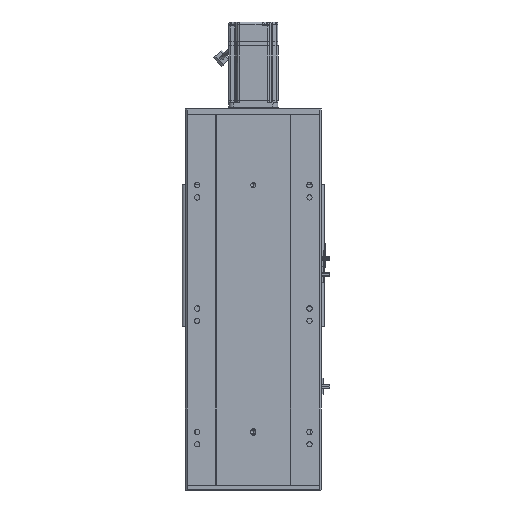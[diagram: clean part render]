
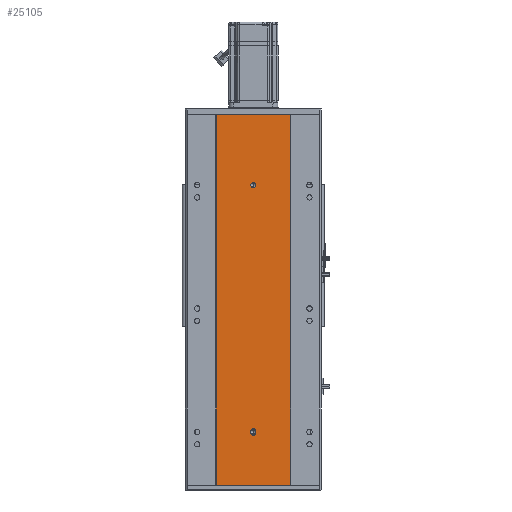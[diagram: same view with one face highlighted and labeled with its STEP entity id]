
A CAD part, front view. The second image highlights one B-rep face of the part: STEP entity #25105.
In plain terms, the highlighted planar face has unit normal (0, -1, 0).
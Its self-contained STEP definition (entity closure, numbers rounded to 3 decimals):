
#181 = ORIENTED_EDGE ( 'NONE', *, *, #3454, .F. ) ;
#765 = FACE_OUTER_BOUND ( 'NONE', #19413, .T. ) ;
#3454 = EDGE_CURVE ( 'NONE', #32451, #62716, #34679, .T. ) ;
#5569 = VERTEX_POINT ( 'NONE', #65441 ) ;
#5807 = VERTEX_POINT ( 'NONE', #29132 ) ;
#6726 = DIRECTION ( 'NONE',  ( 0., 0., -1. ) ) ;
#6752 = LINE ( 'NONE', #67056, #61177 ) ;
#8609 = DIRECTION ( 'NONE',  ( 0., -1., 0. ) ) ;
#9833 = VECTOR ( 'NONE', #47322, 1000. ) ;
#11035 = DIRECTION ( 'NONE',  ( 0., -1., 0. ) ) ;
#11925 = EDGE_CURVE ( 'NONE', #37047, #28024, #36061, .T. ) ;
#12560 = DIRECTION ( 'NONE',  ( 0., -1., 0. ) ) ;
#12958 = FACE_BOUND ( 'NONE', #44705, .T. ) ;
#12994 = CARTESIAN_POINT ( 'NONE',  ( 0., 0., 84.5 ) ) ;
#13273 = EDGE_CURVE ( 'NONE', #56911, #64471, #18107, .T. ) ;
#13289 = CIRCLE ( 'NONE', #52359, 4. ) ;
#13792 = DIRECTION ( 'NONE',  ( 0., 0., -1. ) ) ;
#14997 = EDGE_CURVE ( 'NONE', #5569, #50503, #56838, .T. ) ;
#15263 = DIRECTION ( 'NONE',  ( 1., 0., 0. ) ) ;
#15531 = DIRECTION ( 'NONE',  ( 0., 0., -1. ) ) ;
#16960 = CARTESIAN_POINT ( 'NONE',  ( 0., 0., 486. ) ) ;
#17175 = DIRECTION ( 'NONE',  ( 0., -1., 0. ) ) ;
#17643 = CARTESIAN_POINT ( 'NONE',  ( 60., 0., 0. ) ) ;
#18107 = CIRCLE ( 'NONE', #38784, 4. ) ;
#18285 = DIRECTION ( 'NONE',  ( 1., 0., 0. ) ) ;
#18608 = VERTEX_POINT ( 'NONE', #23349 ) ;
#19413 = EDGE_LOOP ( 'NONE', ( #29934, #54458, #48048, #42395 ) ) ;
#19467 = VECTOR ( 'NONE', #48207, 1000. ) ;
#19982 = EDGE_CURVE ( 'NONE', #5807, #5569, #6752, .T. ) ;
#20349 = LINE ( 'NONE', #31006, #9833 ) ;
#20847 = CARTESIAN_POINT ( 'NONE',  ( 4., 0., 87.5 ) ) ;
#22766 = DIRECTION ( 'NONE',  ( 0., 1., 0. ) ) ;
#23349 = CARTESIAN_POINT ( 'NONE',  ( -60., 0., 0. ) ) ;
#23493 = VECTOR ( 'NONE', #18285, 1000. ) ;
#24391 = CARTESIAN_POINT ( 'NONE',  ( -60., 0., 0. ) ) ;
#24443 = CARTESIAN_POINT ( 'NONE',  ( -4., 0., 87.5 ) ) ;
#25105 = ADVANCED_FACE ( 'NONE', ( #12958, #62556, #765 ), #38657, .F. ) ;
#25323 = ORIENTED_EDGE ( 'NONE', *, *, #48123, .F. ) ;
#26002 = LINE ( 'NONE', #63884, #19467 ) ;
#28024 = VERTEX_POINT ( 'NONE', #62558 ) ;
#29132 = CARTESIAN_POINT ( 'NONE',  ( -60., 0., 600. ) ) ;
#29934 = ORIENTED_EDGE ( 'NONE', *, *, #66848, .T. ) ;
#30758 = CARTESIAN_POINT ( 'NONE',  ( 60., 0., 600. ) ) ;
#31006 = CARTESIAN_POINT ( 'NONE',  ( -60., 0., 600. ) ) ;
#32451 = VERTEX_POINT ( 'NONE', #66643 ) ;
#33644 = AXIS2_PLACEMENT_3D ( 'NONE', #66007, #40519, #40298 ) ;
#33647 = AXIS2_PLACEMENT_3D ( 'NONE', #53649, #22766, #48653 ) ;
#34679 = LINE ( 'NONE', #40469, #37105 ) ;
#35718 = ORIENTED_EDGE ( 'NONE', *, *, #39311, .F. ) ;
#36061 = CIRCLE ( 'NONE', #43074, 4. ) ;
#36763 = ORIENTED_EDGE ( 'NONE', *, *, #11925, .F. ) ;
#36831 = AXIS2_PLACEMENT_3D ( 'NONE', #12994, #12560, #38206 ) ;
#37047 = VERTEX_POINT ( 'NONE', #49140 ) ;
#37105 = VECTOR ( 'NONE', #55695, 1000. ) ;
#38206 = DIRECTION ( 'NONE',  ( 0., 0., -1. ) ) ;
#38343 = EDGE_LOOP ( 'NONE', ( #181, #35718, #36763, #49934, #25323 ) ) ;
#38657 = PLANE ( 'NONE',  #33647 ) ;
#38784 = AXIS2_PLACEMENT_3D ( 'NONE', #66036, #8609, #13792 ) ;
#39311 = EDGE_CURVE ( 'NONE', #28024, #32451, #58117, .T. ) ;
#40298 = DIRECTION ( 'NONE',  ( 0., 0., -1. ) ) ;
#40469 = CARTESIAN_POINT ( 'NONE',  ( 4., 0., 84.5 ) ) ;
#40519 = DIRECTION ( 'NONE',  ( 0., -1., 0. ) ) ;
#40822 = VERTEX_POINT ( 'NONE', #24443 ) ;
#42395 = ORIENTED_EDGE ( 'NONE', *, *, #45646, .T. ) ;
#43074 = AXIS2_PLACEMENT_3D ( 'NONE', #47581, #11035, #6726 ) ;
#44705 = EDGE_LOOP ( 'NONE', ( #54692, #60418 ) ) ;
#45646 = EDGE_CURVE ( 'NONE', #5807, #18608, #20349, .T. ) ;
#47322 = DIRECTION ( 'NONE',  ( 0., 0., -1. ) ) ;
#47581 = CARTESIAN_POINT ( 'NONE',  ( 0., 0., 84.5 ) ) ;
#48048 = ORIENTED_EDGE ( 'NONE', *, *, #19982, .F. ) ;
#48123 = EDGE_CURVE ( 'NONE', #62716, #40822, #56694, .T. ) ;
#48207 = DIRECTION ( 'NONE',  ( 0., 0., -1. ) ) ;
#48653 = DIRECTION ( 'NONE',  ( 0., 0., 1. ) ) ;
#49140 = CARTESIAN_POINT ( 'NONE',  ( -4., 0., 84.5 ) ) ;
#49934 = ORIENTED_EDGE ( 'NONE', *, *, #54785, .F. ) ;
#50503 = VERTEX_POINT ( 'NONE', #17643 ) ;
#51663 = CARTESIAN_POINT ( 'NONE',  ( 0., 0., 482. ) ) ;
#51991 = VECTOR ( 'NONE', #15531, 1000. ) ;
#52359 = AXIS2_PLACEMENT_3D ( 'NONE', #16960, #17175, #63505 ) ;
#53649 = CARTESIAN_POINT ( 'NONE',  ( -60., 0., 600. ) ) ;
#54458 = ORIENTED_EDGE ( 'NONE', *, *, #14997, .F. ) ;
#54692 = ORIENTED_EDGE ( 'NONE', *, *, #58957, .F. ) ;
#54785 = EDGE_CURVE ( 'NONE', #40822, #37047, #26002, .T. ) ;
#55695 = DIRECTION ( 'NONE',  ( 0., 0., 1. ) ) ;
#56694 = CIRCLE ( 'NONE', #33644, 4. ) ;
#56838 = LINE ( 'NONE', #30758, #51991 ) ;
#56911 = VERTEX_POINT ( 'NONE', #60731 ) ;
#58117 = CIRCLE ( 'NONE', #36831, 4. ) ;
#58406 = LINE ( 'NONE', #24391, #23493 ) ;
#58957 = EDGE_CURVE ( 'NONE', #64471, #56911, #13289, .T. ) ;
#60418 = ORIENTED_EDGE ( 'NONE', *, *, #13273, .F. ) ;
#60731 = CARTESIAN_POINT ( 'NONE',  ( 0., 0., 490. ) ) ;
#61177 = VECTOR ( 'NONE', #15263, 1000. ) ;
#62556 = FACE_BOUND ( 'NONE', #38343, .T. ) ;
#62558 = CARTESIAN_POINT ( 'NONE',  ( 0., 0., 80.5 ) ) ;
#62716 = VERTEX_POINT ( 'NONE', #20847 ) ;
#63505 = DIRECTION ( 'NONE',  ( 0., 0., -1. ) ) ;
#63884 = CARTESIAN_POINT ( 'NONE',  ( -4., 0., 84.5 ) ) ;
#64471 = VERTEX_POINT ( 'NONE', #51663 ) ;
#65441 = CARTESIAN_POINT ( 'NONE',  ( 60., 0., 600. ) ) ;
#66007 = CARTESIAN_POINT ( 'NONE',  ( 0., 0., 87.5 ) ) ;
#66036 = CARTESIAN_POINT ( 'NONE',  ( 0., 0., 486. ) ) ;
#66643 = CARTESIAN_POINT ( 'NONE',  ( 4., 0., 84.5 ) ) ;
#66848 = EDGE_CURVE ( 'NONE', #18608, #50503, #58406, .T. ) ;
#67056 = CARTESIAN_POINT ( 'NONE',  ( -60., 0., 600. ) ) ;
